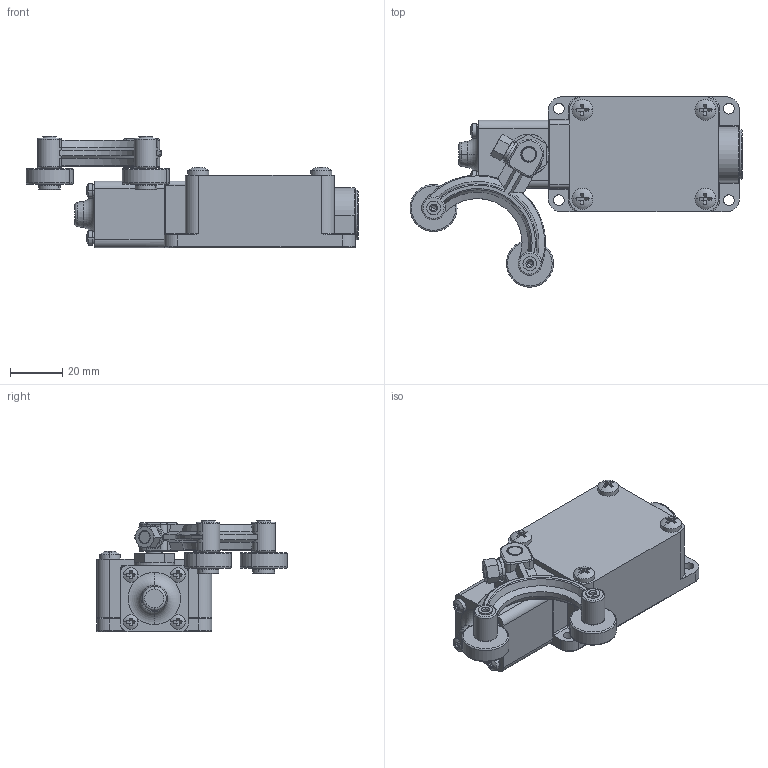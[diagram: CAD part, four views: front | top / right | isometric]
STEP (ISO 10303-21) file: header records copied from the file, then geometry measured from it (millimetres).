
FILE_DESCRIPTION((''),'2;1');
FILE_NAME('1111','2025-05-06T',('qinxiong.ji'),(''),'PRO/ENGINEER BY PARAMETRIC TECHNOLOGY CORPORATION, 2015440','PRO/ENGINEER BY PARAMETRIC TECHNOLOGY CORPORATION, 2015440','');
FILE_SCHEMA(('CONFIG_CONTROL_DESIGN'));
Length unit declared in the file: millimetre
Products named in the file (1): 1111
Bounding box: 126.91 x 72.81 x 42.65 mm (x, y, z)
Volume: 105299.9 mm3; surface area: 25667.4 mm2
Topology: 3 solids, 7 shells, 658 faces, 1663 edges, 1024 vertices
Faces by surface type: plane 301, cylinder 178, torus 110, cone 53, sphere 16
Entity records: 21278 total; most frequent: CARTESIAN_POINT 5210, DIRECTION 3506, ORIENTED_EDGE 3318, EDGE_CURVE 1659, AXIS2_PLACEMENT_3D 1400, VERTEX_POINT 1024, CIRCLE 742, EDGE_LOOP 711
